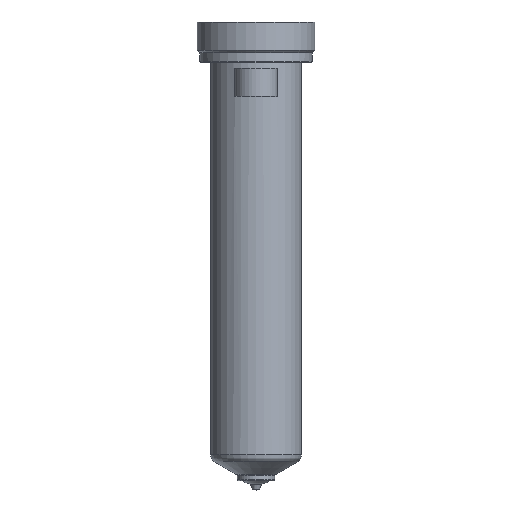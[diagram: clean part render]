
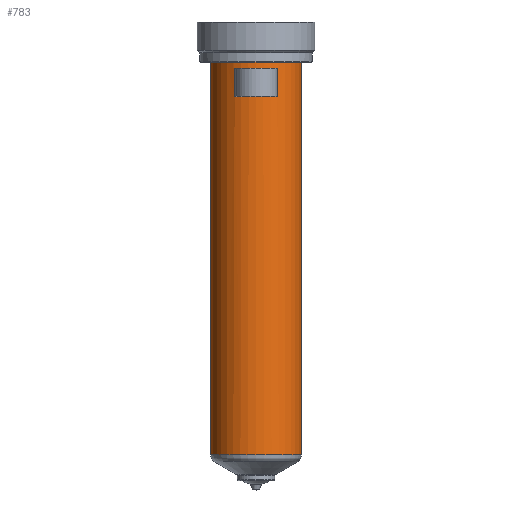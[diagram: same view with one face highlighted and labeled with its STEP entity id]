
A CAD part, top view. The second image highlights one B-rep face of the part: STEP entity #783.
In plain terms, the highlighted cylindrical face has radius 17 mm (diameter 34 mm), a partial arc.
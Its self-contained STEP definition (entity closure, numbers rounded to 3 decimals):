
#191=DIRECTION('',(0.,-1.,0.));
#192=VECTOR('',#191,146.906);
#193=CARTESIAN_POINT('',(17.,0.,0.));
#194=LINE('',#193,#192);
#195=CARTESIAN_POINT('',(0.,-146.906,0.));
#196=DIRECTION('',(0.,1.,0.));
#197=DIRECTION('',(-1.,0.,0.));
#198=AXIS2_PLACEMENT_3D('',#195,#196,#197);
#200=DIRECTION('',(0.,1.,0.));
#201=VECTOR('',#200,146.906);
#202=CARTESIAN_POINT('',(-17.,-146.906,0.));
#203=LINE('',#202,#201);
#204=CARTESIAN_POINT('',(0.,0.,0.));
#205=DIRECTION('',(0.,1.,0.));
#206=DIRECTION('',(-1.,0.,0.));
#207=AXIS2_PLACEMENT_3D('',#204,#205,#206);
#353=DIRECTION('',(0.,1.,0.));
#354=VECTOR('',#353,10.5);
#355=CARTESIAN_POINT('',(-8.,-13.,15.));
#356=LINE('',#355,#354);
#357=CARTESIAN_POINT('',(0.,-13.,0.));
#358=DIRECTION('',(0.,1.,0.));
#359=DIRECTION('',(-0.471,0.,0.882));
#360=AXIS2_PLACEMENT_3D('',#357,#358,#359);
#383=CARTESIAN_POINT('',(0.,-2.5,0.));
#384=DIRECTION('',(0.,-1.,0.));
#385=DIRECTION('',(0.471,0.,0.882));
#386=AXIS2_PLACEMENT_3D('',#383,#384,#385);
#401=DIRECTION('',(0.,1.,0.));
#402=VECTOR('',#401,10.5);
#403=CARTESIAN_POINT('',(8.,-13.,15.));
#404=LINE('',#403,#402);
#462=CARTESIAN_POINT('',(-17.,0.,0.));
#463=CARTESIAN_POINT('',(17.,0.,0.));
#464=VERTEX_POINT('',#462);
#465=VERTEX_POINT('',#463);
#474=CARTESIAN_POINT('',(-8.,-2.5,15.));
#475=VERTEX_POINT('',#474);
#476=CARTESIAN_POINT('',(8.,-2.5,15.));
#477=VERTEX_POINT('',#476);
#514=CARTESIAN_POINT('',(17.,-146.906,0.));
#515=VERTEX_POINT('',#514);
#524=CARTESIAN_POINT('',(-17.,-146.906,0.));
#525=VERTEX_POINT('',#524);
#542=CARTESIAN_POINT('',(-8.,-13.,15.));
#543=CARTESIAN_POINT('',(8.,-13.,15.));
#544=VERTEX_POINT('',#542);
#545=VERTEX_POINT('',#543);
#761=CARTESIAN_POINT('',(0.,16.4,0.));
#762=DIRECTION('',(0.,-1.,0.));
#763=DIRECTION('',(-1.,0.,0.));
#764=AXIS2_PLACEMENT_3D('',#761,#762,#763);
#765=CYLINDRICAL_SURFACE('',#764,17.);
#766=ORIENTED_EDGE('',*,*,#755,.T.);
#768=ORIENTED_EDGE('',*,*,#767,.F.);
#769=ORIENTED_EDGE('',*,*,#751,.T.);
#770=ORIENTED_EDGE('',*,*,#741,.T.);
#771=EDGE_LOOP('',(#766,#768,#769,#770));
#772=FACE_OUTER_BOUND('',#771,.F.);
#774=ORIENTED_EDGE('',*,*,#773,.F.);
#776=ORIENTED_EDGE('',*,*,#775,.T.);
#778=ORIENTED_EDGE('',*,*,#777,.T.);
#780=ORIENTED_EDGE('',*,*,#779,.T.);
#781=EDGE_LOOP('',(#774,#776,#778,#780));
#782=FACE_BOUND('',#781,.F.);
#783=ADVANCED_FACE('',(#772,#782),#765,.T.);
#199=CIRCLE('',#198,17.);
#208=CIRCLE('',#207,17.);
#361=CIRCLE('',#360,17.);
#387=CIRCLE('',#386,17.);
#741=EDGE_CURVE('',#464,#465,#208,.T.);
#751=EDGE_CURVE('',#525,#464,#203,.T.);
#755=EDGE_CURVE('',#465,#515,#194,.T.);
#767=EDGE_CURVE('',#525,#515,#199,.T.);
#773=EDGE_CURVE('',#544,#475,#356,.T.);
#775=EDGE_CURVE('',#544,#545,#361,.T.);
#777=EDGE_CURVE('',#545,#477,#404,.T.);
#779=EDGE_CURVE('',#477,#475,#387,.T.);
